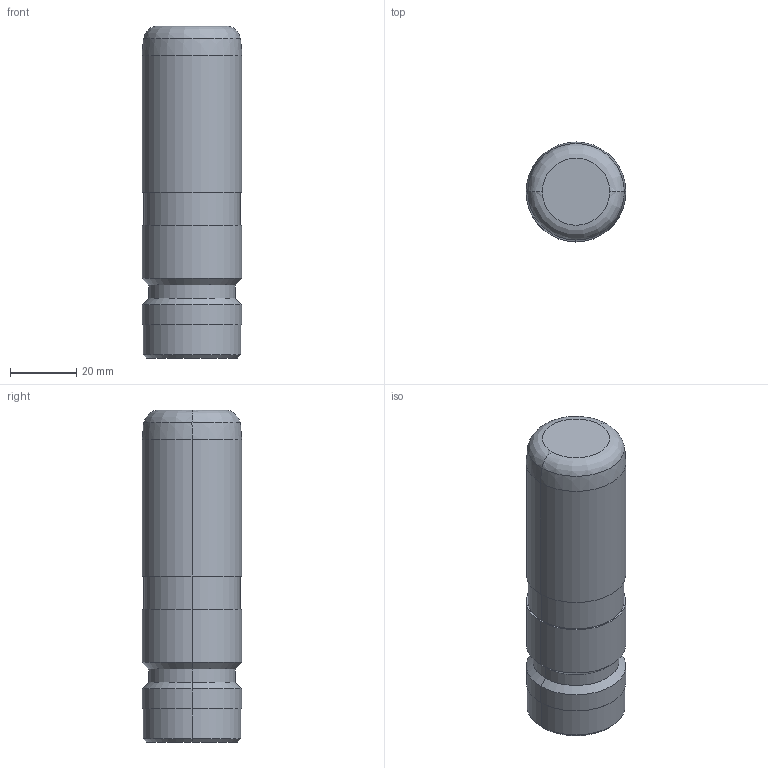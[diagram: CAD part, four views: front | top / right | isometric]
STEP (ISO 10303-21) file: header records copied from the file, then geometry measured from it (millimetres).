
FILE_DESCRIPTION((''),'2;1');
FILE_NAME('','2010-08-29T23:14:23+09:00',('misumi'),(''),'M/STEP i/f 1R2-14','CADmeister v5.1','');
FILE_SCHEMA(('AUTOMOTIVE_DESIGN'));
Length unit declared in the file: millimetre
Products named in the file (1): GPM30-100
Bounding box: 30 x 30 x 100 mm (x, y, z)
Volume: 68299.8 mm3; surface area: 10664.2 mm2
Topology: 1 solids, 1 shells, 27 faces, 52 edges, 30 vertices
Faces by surface type: cylinder 12, cone 6, plane 5, revolution 4
Entity records: 790 total; most frequent: DIRECTION 142, CARTESIAN_POINT 120, ORIENTED_EDGE 104, AXIS2_PLACEMENT_3D 60, EDGE_CURVE 52, CIRCLE 36, VERTEX_POINT 30, EDGE_LOOP 30
